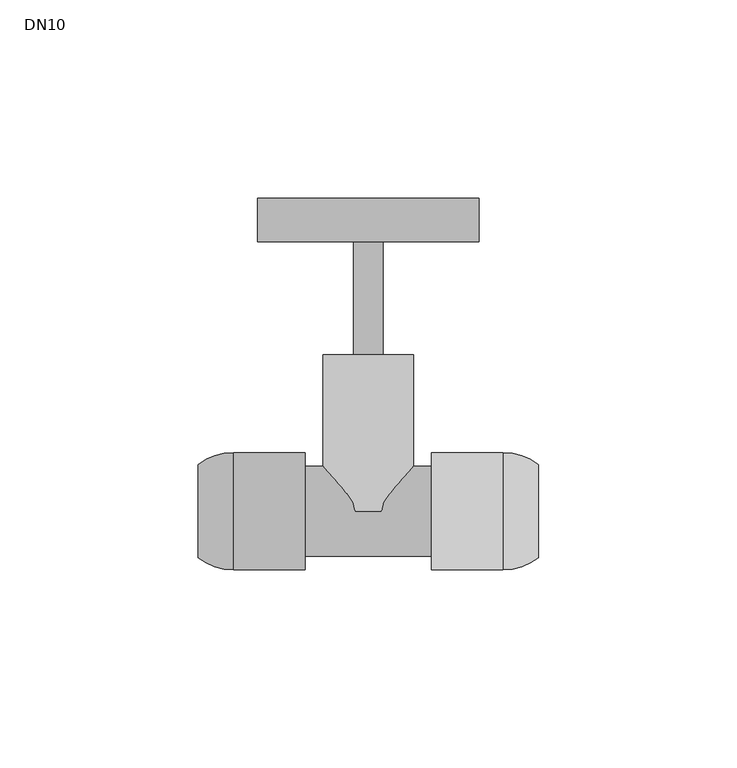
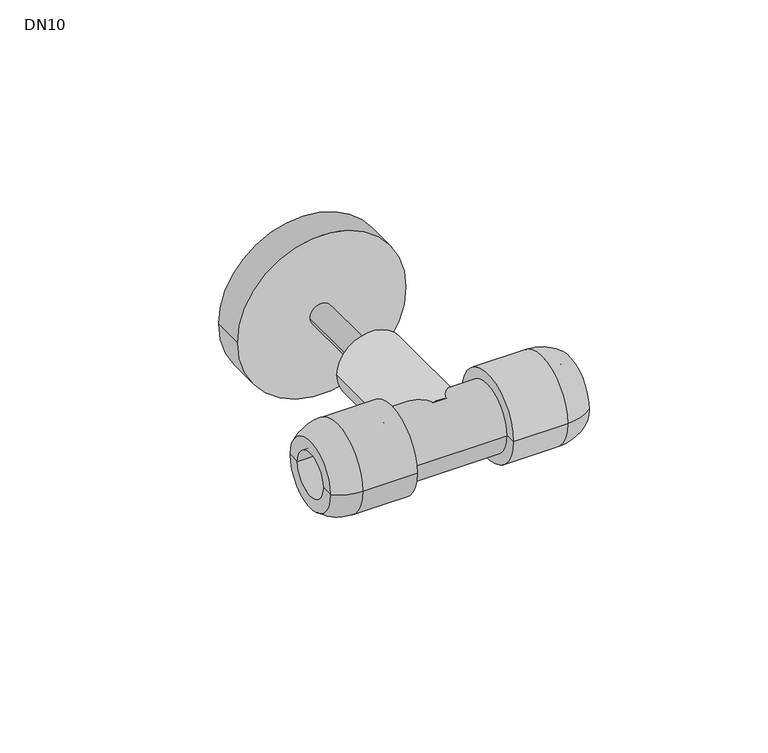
"""IFC4 building model written with IfcOpenShell, lengths in millimetres: valve geometry, Wavin_PipeAccessory_Hep2oGateValve : DN10."""

from ifc_helpers import new_model, si_unit, point, frame, origin, origin_2d, place, context, project, spatial, polyline, circle_curve, ellipse_curve, trimmed, segment, composite_curve, outline, extrude, source, transform, mapped, element, save
from ifc_brep_helpers import plane_surface, cylinder_surface, revolved_surface, advanced_brep


def dn10_b137be33(model_context):
    return source(origin(), model_context, "Body", "SolidModel", [
        advanced_brep(
        [(16.0, 7.5, 0.0), (16.0, -7.5, 0.0), (43.0, -7.5, 0.0), (43.0, 7.5, 0.0), (16.0, 14.8, 0.0), (16.0, -14.8, 0.0), (34.0, 14.8, 0.0), (34.0, -14.8, 0.0), (43.0, 11.7490425, 0.0), (43.0, -11.7490425, 0.0)],
        [
            (0, 1, circle_curve(frame((16.0, 0.0, 0.0), z_axis=(-1.0, 0.0, 0.0), x_axis=(0.0, -1.0, 0.0)), 7.5)),
            (1, 2),
            (2, 3, circle_curve(frame((43.0, 0.0, 0.0), z_axis=(1.0, 0.0, 0.0), x_axis=(0.0, -1.0, 0.0)), 7.5)),
            (3, 0),
            (1, 0, circle_curve(frame((16.0, 0.0, 0.0), z_axis=(-1.0, 0.0, 0.0), x_axis=(0.0, -1.0, 0.0)), 7.5)),
            (3, 2, circle_curve(frame((43.0, 0.0, 0.0), z_axis=(1.0, 0.0, 0.0), x_axis=(0.0, -1.0, 0.0)), 7.5)),
            (4, 5, circle_curve(frame((16.0, 0.0, 0.0), z_axis=(-1.0, 0.0, 0.0), x_axis=(0.0, -1.0, 0.0)), 14.8)),
            (5, 1),
            (0, 4),
            (5, 4, circle_curve(frame((16.0, 0.0, 0.0), z_axis=(-1.0, 0.0, 0.0), x_axis=(0.0, -1.0, 0.0)), 14.8)),
            (6, 7, circle_curve(frame((34.0, 0.0, 0.0), z_axis=(-1.0, 0.0, 0.0), x_axis=(0.0, -1.0, 0.0)), 14.8)),
            (7, 5),
            (4, 6),
            (7, 6, circle_curve(frame((34.0, 0.0, 0.0), z_axis=(-1.0, 0.0, 0.0), x_axis=(0.0, -1.0, 0.0)), 14.8)),
            (8, 9, circle_curve(frame((43.0, 0.0, 0.0), z_axis=(-1.0, 0.0, 0.0), x_axis=(0.0, -1.0, 0.0)), 11.7490425)),
            (9, 7, circle_curve(frame((34.0, 0.0, 0.0), z_axis=(0.0, 0.0, -1.0), x_axis=(-1.0, 0.0, 0.0)), 14.8)),
            (6, 8, circle_curve(frame((34.0, 0.0, 0.0), z_axis=(0.0, 0.0, -1.0), x_axis=(-1.0, 0.0, 0.0)), 14.8)),
            (9, 8, circle_curve(frame((43.0, 0.0, 0.0), z_axis=(-1.0, 0.0, 0.0), x_axis=(0.0, -1.0, 0.0)), 11.7490425)),
            (2, 9),
            (8, 3),
        ],
        [
            revolved_surface(polyline([(43.0, -7.5, 0.0), (16.0, -7.5, 0.0)]), (-1984.0, 0.0, 0.0), (1.0, 0.0, 0.0)),
            plane_surface(frame((16.0, 0.0, 0.0), z_axis=(-1.0, 0.0, 0.0), x_axis=(0.0, -1.0, 0.0))),
            cylinder_surface(frame((-1984.0, 0.0, 0.0), z_axis=(1.0, 0.0, 0.0), x_axis=(0.0, -1.0, 0.0)), 14.8),
            revolved_surface(trimmed(ellipse_curve(frame((34.0, 0.0, 0.0), z_axis=(0.0, 0.0, 1.0), x_axis=(-1.0, 0.0, 0.0)), 14.8, 14.8), [point((34.0, -14.8, 0.0))], [point((43.0, -11.7490425, 0.0))], True, "CARTESIAN"), (-1984.0, 0.0, 0.0), (1.0, 0.0, 0.0)),
            plane_surface(frame((43.0, 0.0, 0.0), z_axis=(1.0, 0.0, 0.0), x_axis=(0.0, -1.0, 0.0))),
        ],
        [
            (0, [[1, 2, 3, 4]]),
            (0, [[5, -4, 6, -2]]),
            (1, [[7, 8, -1, 9]]),
            (1, [[10, -9, -5, -8]]),
            (2, [[11, 12, -7, 13]]),
            (2, [[14, -13, -10, -12]]),
            (3, [[15, 16, -11, 17]]),
            (3, [[18, -17, -14, -16]]),
            (4, [[-3, 19, -15, 20]]),
            (4, [[-6, -20, -18, -19]]),
        ],
    ),
        advanced_brep(
        [(-16.0, -7.5, 0.0), (-16.0, 7.5, 0.0), (-43.0, 7.5, 0.0), (-43.0, -7.5, 0.0), (-16.0, -14.8, 0.0), (-16.0, 14.8, 0.0), (-34.0, -14.8, 0.0), (-34.0, 14.8, 0.0), (-43.0, -11.7490425, 0.0), (-43.0, 11.7490425, 0.0)],
        [
            (0, 1, circle_curve(frame((-16.0, 0.0, 0.0), z_axis=(1.0, 0.0, 0.0), x_axis=(0.0, 1.0, 0.0)), 7.5)),
            (1, 2),
            (2, 3, circle_curve(frame((-43.0, 0.0, 0.0), z_axis=(-1.0, 0.0, 0.0), x_axis=(0.0, 1.0, 0.0)), 7.5)),
            (3, 0),
            (1, 0, circle_curve(frame((-16.0, 0.0, 0.0), z_axis=(1.0, 0.0, 0.0), x_axis=(0.0, 1.0, 0.0)), 7.5)),
            (3, 2, circle_curve(frame((-43.0, 0.0, 0.0), z_axis=(-1.0, 0.0, 0.0), x_axis=(0.0, 1.0, 0.0)), 7.5)),
            (4, 5, circle_curve(frame((-16.0, 0.0, 0.0), z_axis=(1.0, 0.0, 0.0), x_axis=(0.0, 1.0, 0.0)), 14.8)),
            (5, 1),
            (0, 4),
            (5, 4, circle_curve(frame((-16.0, 0.0, 0.0), z_axis=(1.0, 0.0, 0.0), x_axis=(0.0, 1.0, 0.0)), 14.8)),
            (6, 7, circle_curve(frame((-34.0, 0.0, 0.0), z_axis=(1.0, 0.0, 0.0), x_axis=(0.0, 1.0, 0.0)), 14.8)),
            (7, 5),
            (4, 6),
            (7, 6, circle_curve(frame((-34.0, 0.0, 0.0), z_axis=(1.0, 0.0, 0.0), x_axis=(0.0, 1.0, 0.0)), 14.8)),
            (8, 9, circle_curve(frame((-43.0, 0.0, 0.0), z_axis=(1.0, 0.0, 0.0), x_axis=(0.0, 1.0, 0.0)), 11.7490425)),
            (9, 7, circle_curve(frame((-34.0, 0.0, 0.0), z_axis=(0.0, 0.0, -1.0), x_axis=(1.0, 0.0, 0.0)), 14.8)),
            (6, 8, circle_curve(frame((-34.0, 0.0, 0.0), z_axis=(0.0, 0.0, -1.0), x_axis=(1.0, 0.0, 0.0)), 14.8)),
            (9, 8, circle_curve(frame((-43.0, 0.0, 0.0), z_axis=(1.0, 0.0, 0.0), x_axis=(0.0, 1.0, 0.0)), 11.7490425)),
            (2, 9),
            (8, 3),
        ],
        [
            revolved_surface(polyline([(-43.0, 7.5, 0.0), (-16.0, 7.5, 0.0)]), (1984.0, 0.0, 0.0), (-1.0, 0.0, 0.0)),
            plane_surface(frame((-16.0, 0.0, 0.0), z_axis=(1.0, 0.0, 0.0), x_axis=(0.0, 1.0, 0.0))),
            cylinder_surface(frame((1984.0, 0.0, 0.0), z_axis=(-1.0, 0.0, 0.0), x_axis=(0.0, 1.0, 0.0)), 14.8),
            revolved_surface(trimmed(ellipse_curve(frame((-34.0, 0.0, 0.0), z_axis=(0.0, 0.0, 1.0), x_axis=(1.0, 0.0, 0.0)), 14.8, 14.8), [point((-34.0, 14.8, 0.0))], [point((-43.0, 11.7490425, 0.0))], True, "CARTESIAN"), (1984.0, 0.0, 0.0), (-1.0, 0.0, 0.0)),
            plane_surface(frame((-43.0, 0.0, 0.0), z_axis=(-1.0, 0.0, 0.0), x_axis=(0.0, 1.0, 0.0))),
        ],
        [
            (0, [[1, 2, 3, 4]]),
            (0, [[5, -4, 6, -2]]),
            (1, [[7, 8, -1, 9]]),
            (1, [[10, -9, -5, -8]]),
            (2, [[11, 12, -7, 13]]),
            (2, [[14, -13, -10, -12]]),
            (3, [[15, 16, -11, 17]]),
            (3, [[18, -17, -14, -16]]),
            (4, [[-3, 19, -15, 20]]),
            (4, [[-6, -20, -18, -19]]),
        ],
    ),
        extrude(outline(composite_curve([segment(trimmed(circle_curve(origin_2d(), 11.4), [point((0.0, -11.4))], [point((0.0, 11.4))], False, "CARTESIAN"), True, "CONTINUOUS"), segment(trimmed(circle_curve(origin_2d(), 11.4), [point((0.0, 11.4))], [point((0.0, -11.4))], False, "CARTESIAN"), True, "CONTINUOUS")], self_intersect=False)), frame((0.0, 0.0, 0.0), z_axis=(0.0, 1.0, 0.0), x_axis=(0.0, 0.0, 1.0)), (0.0, 0.0, 1.0), 39.5),
        extrude(outline(composite_curve([segment(trimmed(circle_curve(origin_2d(), 3.75), [point((0.0, -3.75))], [point((0.0, 3.75))], False, "CARTESIAN"), True, "CONTINUOUS"), segment(trimmed(circle_curve(origin_2d(), 3.75), [point((0.0, 3.75))], [point((0.0, -3.75))], False, "CARTESIAN"), True, "CONTINUOUS")], self_intersect=False)), frame((0.0, 39.5, 0.0), z_axis=(0.0, 1.0, 0.0), x_axis=(0.0, 0.0, 1.0)), (0.0, 0.0, 1.0), 39.5),
        extrude(outline(composite_curve([segment(trimmed(circle_curve(origin_2d(), 28.0), [point((0.0, -28.0))], [point((0.0, 28.0))], False, "CARTESIAN"), True, "CONTINUOUS"), segment(trimmed(circle_curve(origin_2d(), 28.0), [point((0.0, 28.0))], [point((0.0, -28.0))], False, "CARTESIAN"), True, "CONTINUOUS")], self_intersect=False)), frame((0.0, 68.0, 0.0), z_axis=(0.0, 1.0, 0.0), x_axis=(0.0, 0.0, 1.0)), (0.0, 0.0, 1.0), 11.0),
        advanced_brep(
        [(-16.0, 0.0, 0.0), (-16.0, 11.4, 0.0), (-16.0, -11.4, 0.0), (16.0, -11.4, 0.0), (16.0, 11.4, 0.0), (16.0, 0.0, 0.0)],
        [
            (0, 1),
            (1, 2, circle_curve(frame((-16.0, 0.0, 0.0), z_axis=(-1.0, 0.0, 0.0), x_axis=(0.0, 1.0, 0.0)), 11.4)),
            (2, 0),
            (2, 1, circle_curve(frame((-16.0, 0.0, 0.0), z_axis=(-1.0, 0.0, 0.0), x_axis=(0.0, 1.0, 0.0)), 11.4)),
            (3, 4, circle_curve(frame((16.0, 0.0, 0.0), z_axis=(1.0, 0.0, 0.0), x_axis=(0.0, 1.0, 0.0)), 11.4)),
            (4, 5),
            (5, 3),
            (4, 3, circle_curve(frame((16.0, 0.0, 0.0), z_axis=(1.0, 0.0, 0.0), x_axis=(0.0, 1.0, 0.0)), 11.4)),
            (1, 4),
            (3, 2),
        ],
        [
            plane_surface(frame((-16.0, 0.0, 0.0), z_axis=(-1.0, 0.0, 0.0), x_axis=(0.0, 1.0, 0.0))),
            plane_surface(frame((16.0, 0.0, 0.0), z_axis=(1.0, 0.0, 0.0), x_axis=(0.0, 1.0, 0.0))),
            cylinder_surface(frame((-16.0, 0.0, 0.0), z_axis=(-1.0, 0.0, 0.0), x_axis=(0.0, 1.0, 0.0)), 11.4),
        ],
        [
            (0, [[1, 2, 3]]),
            (0, [[-3, 4, -1]]),
            (1, [[5, 6, 7]]),
            (1, [[8, -7, -6]]),
            (2, [[-2, 9, -5, 10]]),
            (2, [[-4, -10, -8, -9]]),
        ],
    ),
    ])


if __name__ == "__main__":
    model = new_model("IFC4")
    model_context = context("Model", 3, world=origin())
    ifc_project = project(units=[si_unit("LENGTHUNIT", "METRE", prefix="MILLI")], contexts=[model_context])
    site = spatial("IfcSite", under=ifc_project)
    building = spatial("IfcBuilding", under=site)
    placement = place(None, origin())
    dn10_shape = dn10_b137be33(model_context)
    element("IfcValve", 1, ObjectType="Wavin_PipeAccessory_Hep2oGateValve : DN10", at=placement, inside=building, context=model_context, shape_type="MappedRepresentation", body=[
        mapped(dn10_shape, transform((0.0, 0.0, 0.0), x_axis=(1.0, 0.0, 0.0), y_axis=(0.0, 1.0, 0.0), z_axis=(0.0, 0.0, 1.0))),
    ])
    save(model, "model.ifc")
